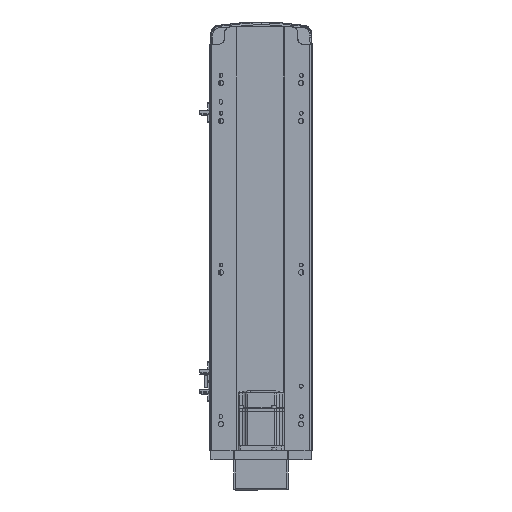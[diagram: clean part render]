
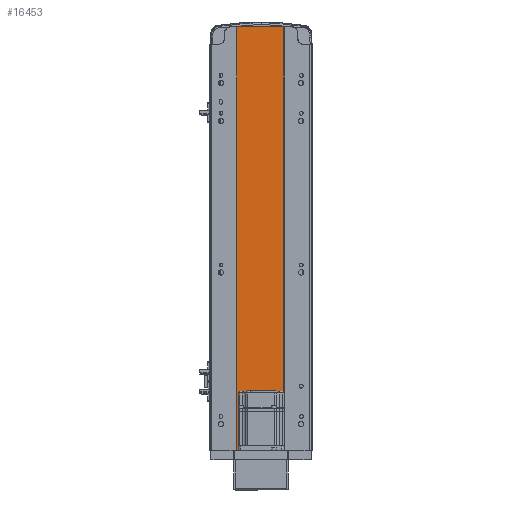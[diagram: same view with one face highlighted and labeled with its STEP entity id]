
A CAD part, front view. The second image highlights one B-rep face of the part: STEP entity #16453.
In plain terms, the highlighted planar face has unit normal (0, -1, 0).
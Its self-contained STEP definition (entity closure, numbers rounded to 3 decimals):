
#4358 = ORIENTED_EDGE ( 'NONE', *, *, #11925, .F. ) ;
#5138 = ORIENTED_EDGE ( 'NONE', *, *, #49325, .T. ) ;
#8107 = DIRECTION ( 'NONE',  ( 0., 0., -1. ) ) ;
#8506 = EDGE_CURVE ( 'NONE', #11432, #10297, #20153, .T. ) ;
#9221 = FACE_OUTER_BOUND ( 'NONE', #13034, .T. ) ;
#10297 = VERTEX_POINT ( 'NONE', #57038 ) ;
#11060 = VERTEX_POINT ( 'NONE', #17098 ) ;
#11432 = VERTEX_POINT ( 'NONE', #23162 ) ;
#11925 = EDGE_CURVE ( 'NONE', #11432, #11060, #42848, .T. ) ;
#13034 = EDGE_LOOP ( 'NONE', ( #5138, #52628, #4358, #45054 ) ) ;
#15149 = DIRECTION ( 'NONE',  ( 1., 0., 0. ) ) ;
#15363 = VERTEX_POINT ( 'NONE', #22265 ) ;
#16453 = ADVANCED_FACE ( 'NONE', ( #9221 ), #22563, .F. ) ;
#17098 = CARTESIAN_POINT ( 'NONE',  ( 30., 1., 559. ) ) ;
#17776 = LINE ( 'NONE', #54834, #52209 ) ;
#20153 = LINE ( 'NONE', #50499, #45524 ) ;
#22265 = CARTESIAN_POINT ( 'NONE',  ( 30., 1., 0. ) ) ;
#22563 = PLANE ( 'NONE',  #56229 ) ;
#22739 = CARTESIAN_POINT ( 'NONE',  ( -32., 1., 559. ) ) ;
#23162 = CARTESIAN_POINT ( 'NONE',  ( -32., 1., 559. ) ) ;
#24810 = DIRECTION ( 'NONE',  ( 1., 0., 0. ) ) ;
#25453 = CARTESIAN_POINT ( 'NONE',  ( 30., 1., 559. ) ) ;
#26779 = EDGE_CURVE ( 'NONE', #11060, #15363, #56337, .T. ) ;
#29367 = CARTESIAN_POINT ( 'NONE',  ( -32., 1., 559. ) ) ;
#31518 = DIRECTION ( 'NONE',  ( -1., 0., 0. ) ) ;
#34281 = VECTOR ( 'NONE', #8107, 1000. ) ;
#35246 = DIRECTION ( 'NONE',  ( 0., 1., 0. ) ) ;
#35258 = VECTOR ( 'NONE', #24810, 1000. ) ;
#42848 = LINE ( 'NONE', #29367, #35258 ) ;
#45054 = ORIENTED_EDGE ( 'NONE', *, *, #8506, .T. ) ;
#45524 = VECTOR ( 'NONE', #54957, 1000. ) ;
#49325 = EDGE_CURVE ( 'NONE', #10297, #15363, #17776, .T. ) ;
#50499 = CARTESIAN_POINT ( 'NONE',  ( -32., 1., 559. ) ) ;
#52209 = VECTOR ( 'NONE', #15149, 1000. ) ;
#52628 = ORIENTED_EDGE ( 'NONE', *, *, #26779, .F. ) ;
#54834 = CARTESIAN_POINT ( 'NONE',  ( -32., 1., 0. ) ) ;
#54957 = DIRECTION ( 'NONE',  ( 0., 0., -1. ) ) ;
#56229 = AXIS2_PLACEMENT_3D ( 'NONE', #22739, #35246, #31518 ) ;
#56337 = LINE ( 'NONE', #25453, #34281 ) ;
#57038 = CARTESIAN_POINT ( 'NONE',  ( -32., 1., 0. ) ) ;
